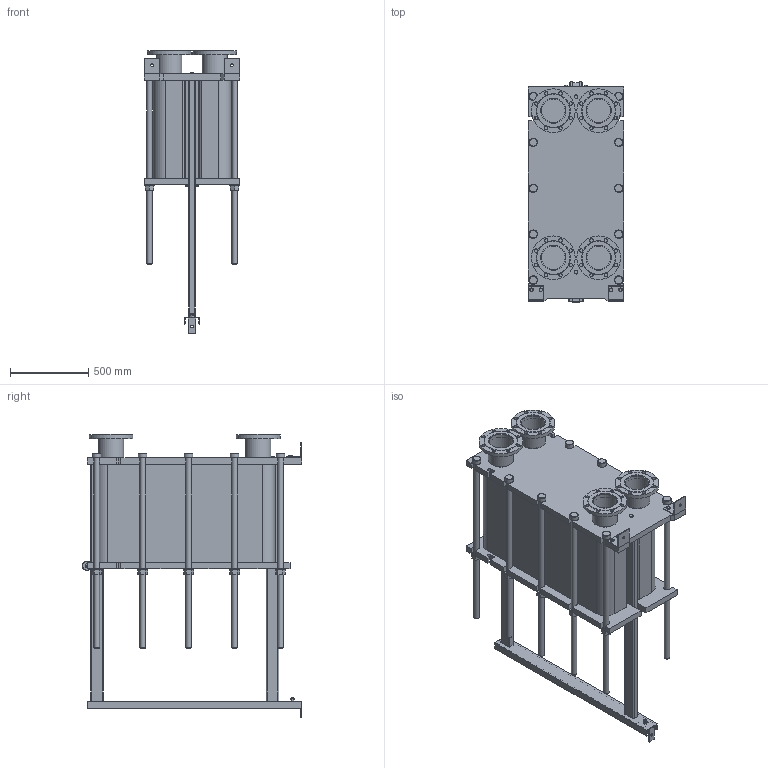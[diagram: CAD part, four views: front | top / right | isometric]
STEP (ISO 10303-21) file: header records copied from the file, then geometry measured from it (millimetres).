
FILE_DESCRIPTION(/* description */ (''),/* implementation_level */ '2;1');
FILE_NAME(/* name */ 'C:\Users\zhuro\Desktop\ENCO\TO\ЭН-041\ЭН-0,5-041-183-1.stp',/* time_stamp */ '2022-06-06T11:05:20+03:00',/* author */ ('zhuro'),/* organization */ (''),/* preprocessor_version */ 'ST-DEVELOPER v18.1',/* originating_system */ 'Autodesk Inventor 2022',/* authorisation */ '');
FILE_SCHEMA (('AUTOMOTIVE_DESIGN { 1 0 10303 214 3 1 1 }'));
Length unit declared in the file: millimetre
Products named in the file (1): ЭН-0,5-041-183-1
Bounding box: 610 x 1406.5 x 1812.5 mm (x, y, z)
Volume: 441400550.2 mm3; surface area: 10854593.1 mm2
Topology: 52 solids, 52 shells, 711 faces, 1696 edges, 1094 vertices
Faces by surface type: plane 487, cylinder 177, cone 41, torus 6
Full cylindrical faces by diameter (mm): 8 x4, 10 x2, 16 x8, 18 x3, 22 x32, 36 x24, 50 x1, 54 x10, 60 x12, 151 x4, 161 x8, 280 x4
Entity records: 22667 total; most frequent: CARTESIAN_POINT 5230, DIRECTION 3644, ORIENTED_EDGE 3392, EDGE_CURVE 1696, AXIS2_PLACEMENT_3D 1272, LINE 1100, VECTOR 1100, VERTEX_POINT 1094
